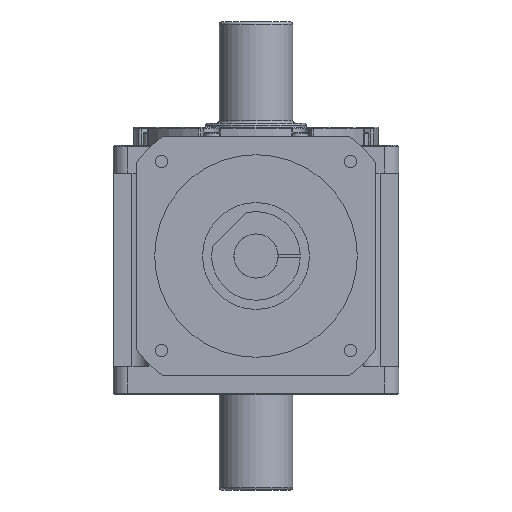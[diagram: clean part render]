
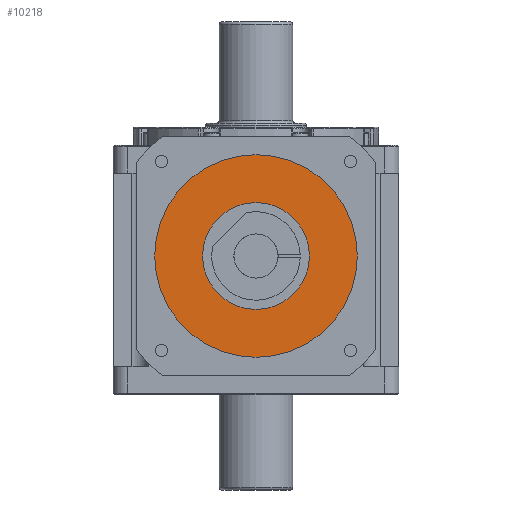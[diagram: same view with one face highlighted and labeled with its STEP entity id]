
A CAD part, front view. The second image highlights one B-rep face of the part: STEP entity #10218.
In plain terms, the highlighted planar face has unit normal (0, -1, 0) as drawn and (0, 0, -1) by its records, which use the part's own axes.
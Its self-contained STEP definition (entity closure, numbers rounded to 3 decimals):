
#88 = VERTEX_POINT ( 'NONE', #17082 ) ;
#1507 = FACE_OUTER_BOUND ( 'NONE', #17722, .T. ) ;
#1993 = AXIS2_PLACEMENT_3D ( 'NONE', #7919, #5323, #16611 ) ;
#2295 = CARTESIAN_POINT ( 'NONE',  ( 0., 0., -151. ) ) ;
#2761 = DIRECTION ( 'NONE',  ( -1., 0., 0. ) ) ;
#2898 = VERTEX_POINT ( 'NONE', #14982 ) ;
#5081 = CARTESIAN_POINT ( 'NONE',  ( 0., 0., -151. ) ) ;
#5203 = CIRCLE ( 'NONE', #10225, 55. ) ;
#5323 = DIRECTION ( 'NONE',  ( 0., 0., -1. ) ) ;
#5704 = EDGE_CURVE ( 'NONE', #88, #6429, #8319, .T. ) ;
#5759 = DIRECTION ( 'NONE',  ( -1., 0., 0. ) ) ;
#5947 = DIRECTION ( 'NONE',  ( 0., 0., -1. ) ) ;
#6247 = AXIS2_PLACEMENT_3D ( 'NONE', #2295, #9523, #7955 ) ;
#6353 = CIRCLE ( 'NONE', #14291, 29. ) ;
#6429 = VERTEX_POINT ( 'NONE', #8619 ) ;
#6757 = DIRECTION ( 'NONE',  ( 0., 0., -1. ) ) ;
#7653 = EDGE_CURVE ( 'NONE', #17394, #2898, #6353, .T. ) ;
#7919 = CARTESIAN_POINT ( 'NONE',  ( 0., 0., -151. ) ) ;
#7955 = DIRECTION ( 'NONE',  ( -1., 0., 0. ) ) ;
#7964 = CIRCLE ( 'NONE', #1993, 29. ) ;
#8319 = CIRCLE ( 'NONE', #6247, 55. ) ;
#8432 = AXIS2_PLACEMENT_3D ( 'NONE', #12864, #5947, #5759 ) ;
#8619 = CARTESIAN_POINT ( 'NONE',  ( -55., 0., -151. ) ) ;
#8731 = PLANE ( 'NONE',  #8432 ) ;
#8976 = ORIENTED_EDGE ( 'NONE', *, *, #7653, .F. ) ;
#9523 = DIRECTION ( 'NONE',  ( 0., 0., -1. ) ) ;
#10218 = ADVANCED_FACE ( 'NONE', ( #14340, #1507 ), #8731, .T. ) ;
#10225 = AXIS2_PLACEMENT_3D ( 'NONE', #5081, #12201, #10909 ) ;
#10909 = DIRECTION ( 'NONE',  ( -1., 0., 0. ) ) ;
#11031 = ORIENTED_EDGE ( 'NONE', *, *, #17958, .T. ) ;
#11098 = CARTESIAN_POINT ( 'NONE',  ( 0., 0., -151. ) ) ;
#12201 = DIRECTION ( 'NONE',  ( 0., 0., -1. ) ) ;
#12864 = CARTESIAN_POINT ( 'NONE',  ( 0., 0., -151. ) ) ;
#13066 = EDGE_CURVE ( 'NONE', #2898, #17394, #7964, .T. ) ;
#14123 = ORIENTED_EDGE ( 'NONE', *, *, #5704, .T. ) ;
#14291 = AXIS2_PLACEMENT_3D ( 'NONE', #11098, #6757, #2761 ) ;
#14340 = FACE_BOUND ( 'NONE', #15619, .T. ) ;
#14982 = CARTESIAN_POINT ( 'NONE',  ( -29., 0., -151. ) ) ;
#15619 = EDGE_LOOP ( 'NONE', ( #17299, #8976 ) ) ;
#16611 = DIRECTION ( 'NONE',  ( -1., 0., 0. ) ) ;
#17082 = CARTESIAN_POINT ( 'NONE',  ( 55., 0., -151. ) ) ;
#17299 = ORIENTED_EDGE ( 'NONE', *, *, #13066, .F. ) ;
#17394 = VERTEX_POINT ( 'NONE', #17609 ) ;
#17609 = CARTESIAN_POINT ( 'NONE',  ( 29., 0., -151. ) ) ;
#17722 = EDGE_LOOP ( 'NONE', ( #11031, #14123 ) ) ;
#17958 = EDGE_CURVE ( 'NONE', #6429, #88, #5203, .T. ) ;
